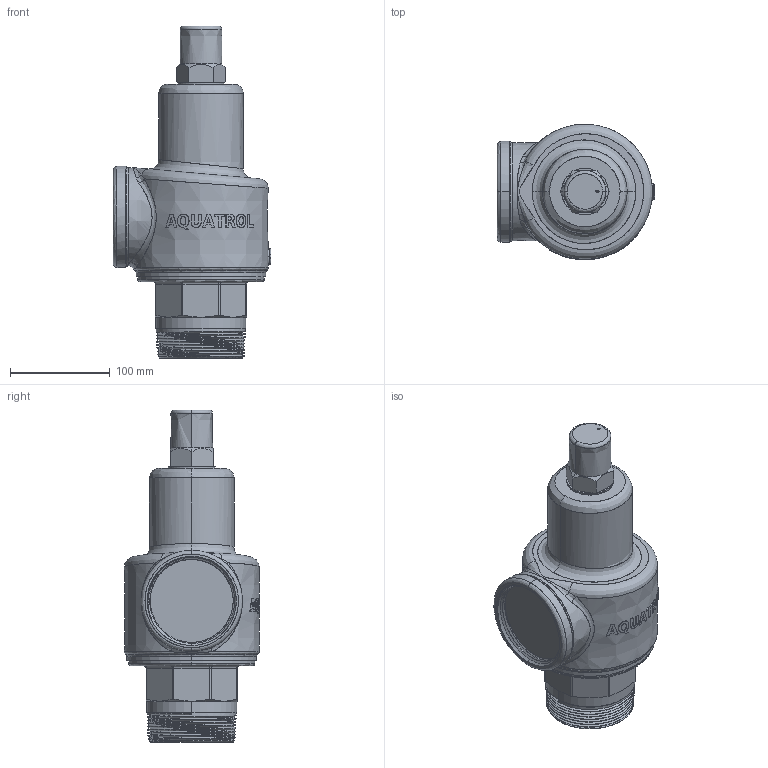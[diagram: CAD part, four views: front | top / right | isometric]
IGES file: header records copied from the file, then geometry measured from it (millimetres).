
Start section: SolidWorks IGES file using analytic representation for surfaces
Global section: file name: C:\Design\Design\Aquatrol\Customer 3D Files\Series 69 Customer Files\Series 69 3000 x 3000\Customer\Series 69 3000 x 3000.IGS; native system: SolidWorks 2015; preprocessor: SolidWorks 2015; author: Karl; date: 141208.090354; units: inch
Bounding box: 158.4 x 136.02 x 333.44 mm (x, y, z)
Surface area: 142819.8 mm2 (no closed solid volume)
Topology: 0 solids, 0 shells, 244 faces, 6163 edges, 6163 vertices
Faces by surface type: bspline 157, revolution 87
